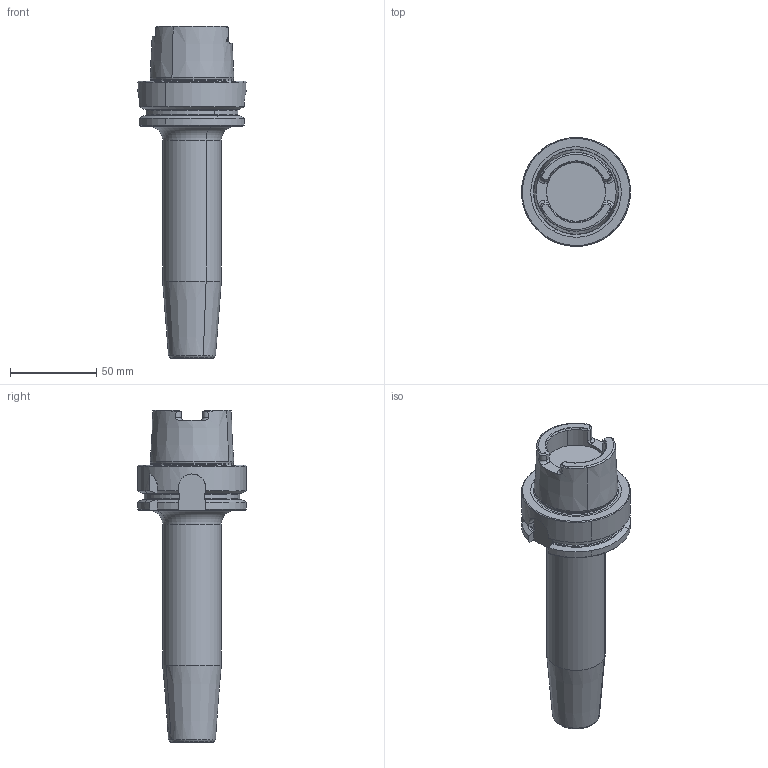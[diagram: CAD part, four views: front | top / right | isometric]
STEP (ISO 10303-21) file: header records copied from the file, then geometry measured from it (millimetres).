
FILE_DESCRIPTION(('CATIA V5 STEP','CAx-IF Rec.Pracs.--- Model Styling and Organization---1.2---2011-12-15'),'2;1');
FILE_NAME('\\nas01\drv1\utils\eitdev\rte\eit\transmagicconvert\db\out\4504026 L.stp','2014-04-01T07:04:15+00:00',('none'),('none'),'CATIA Version 5 Release 21 SP 5 (IN-10)','CATIA V5 STEP AP214','none');
FILE_SCHEMA(('AUTOMOTIVE_DESIGN { 1 0 10303 214 1 1 1 1 }'));
Length unit declared in the file: millimetre
Products named in the file (1): 60966416_0 Holder-Tool HSK A 63 SRKIN 16X160
Bounding box: 62.99 x 63 x 192 mm (x, y, z)
Volume: 233089.9 mm3; surface area: 30880.6 mm2
Topology: 1 solids, 1 shells, 136 faces, 349 edges, 218 vertices
Faces by surface type: plane 41, cone 35, cylinder 32, torus 28
Entity records: 4198 total; most frequent: CARTESIAN_POINT 1278, ORIENTED_EDGE 698, DIRECTION 432, EDGE_CURVE 349, AXIS2_PLACEMENT_3D 232, VERTEX_POINT 218, CIRCLE 151, EDGE_LOOP 139
